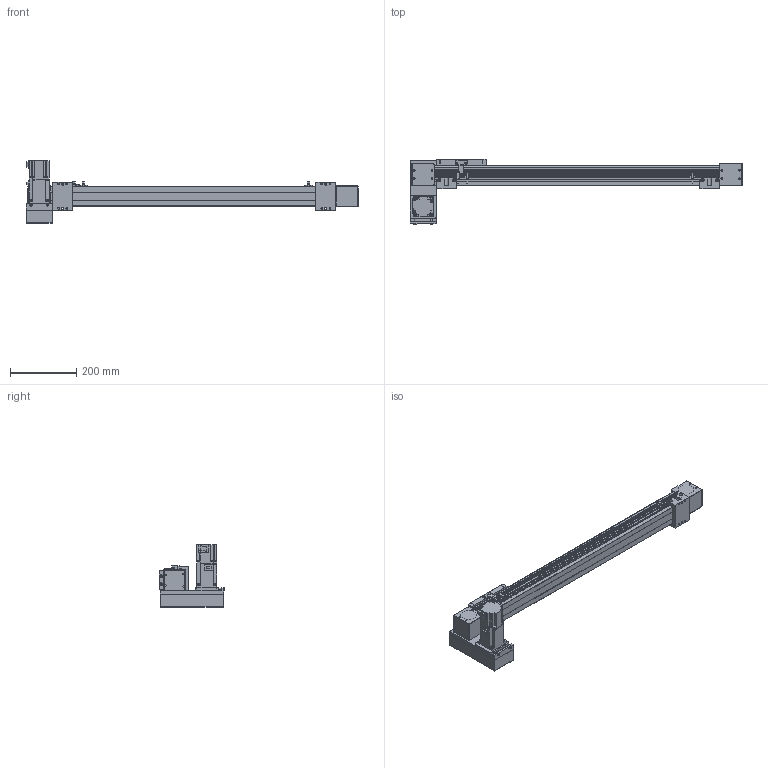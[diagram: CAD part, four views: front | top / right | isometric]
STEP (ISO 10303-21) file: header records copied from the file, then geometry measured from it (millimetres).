
FILE_DESCRIPTION(/* description */ ('STEP AP214'),/* implementation_level */ '2;1');
FILE_NAME(/* name */ 'SK60-P13-S700-LD-T40-C1-N(0)',/* time_stamp */ '2023-04-06T04:38:20+02:00',/* author */ ('License CC BY-ND 4.0'),/* organization */ ('CADENAS'),/* preprocessor_version */ 'ST-DEVELOPER v19.3',/* originating_system */ 'PARTsolutions',/* authorisation */ ' ');
FILE_SCHEMA (('AUTOMOTIVE_DESIGN {1 0 10303 214 3 1 1}'));
Length unit declared in the file: millimetre
Products named in the file (10): SK60-P13-S700-LD-T40-C1-N(0); PSC140-sensor; SK60-S450_seat; SK60-S450-BL-C1_slider; SK60_body3; SK60_body6; SK60-BL_body2; T40-p1; SK60-LD_fb; SK60-S700-LD-C1_body
Assembly tree (16 placements, depth 2):
  SK60-P13-S700-LD-T40-C1-N(0)
    PSC140-sensor  x3
    SK60-S450_seat  x2
    SK60-S450-BL-C1_slider
    SK60_body3  x3
    SK60_body6  x2
    SK60-BL_body2  x2
    T40-p1
    SK60-LD_fb
    SK60-S700-LD-C1_body
Bounding box: 1005.5 x 199 x 189.7 mm (x, y, z)
Volume: 4618234.4 mm3; surface area: 597129.9 mm2
Topology: 16 solids, 16 shells, 810 faces, 2048 edges, 1349 vertices
Faces by surface type: plane 524, cylinder 262, cone 22, torus 2
Full cylindrical faces by diameter (mm): 2.8 x3, 3.3 x4, 4 x2, 4.5 x30, 4.6 x3, 4.917 x16, 5 x6, 5.478 x4, 5.5 x19, 6.5 x4, 7 x2, 8 x4, 8.5 x4, 9.988 x4, 10 x8, 14 x1, 47 x3, 50 x2
Entity records: 18655 total; most frequent: DIRECTION 3184, CARTESIAN_POINT 3150, ORIENTED_EDGE 2940, EDGE_CURVE 1470, AXIS2_PLACEMENT_3D 1068, LINE 1048, VECTOR 1048, VERTEX_POINT 1034
